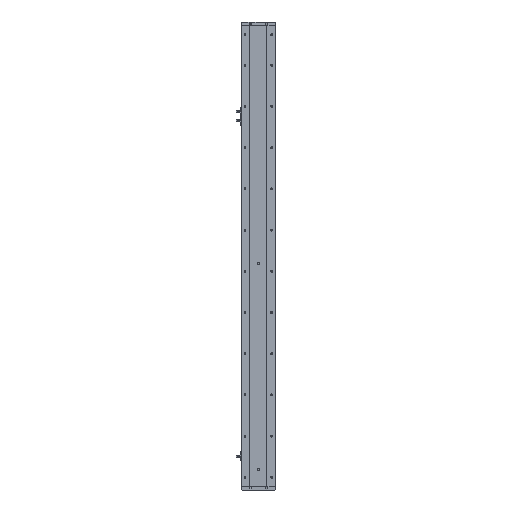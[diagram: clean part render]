
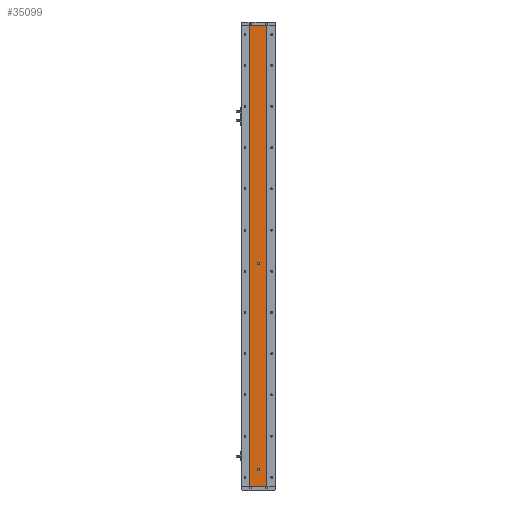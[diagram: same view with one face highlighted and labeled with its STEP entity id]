
A CAD part, left-side view. The second image highlights one B-rep face of the part: STEP entity #35099.
In plain terms, the highlighted planar face has unit normal (-1, 0, 0).
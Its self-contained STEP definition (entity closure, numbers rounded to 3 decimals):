
#1239 = VECTOR ( 'NONE', #41638, 1000. ) ;
#1699 = ORIENTED_EDGE ( 'NONE', *, *, #42191, .F. ) ;
#1868 = DIRECTION ( 'NONE',  ( 0., 0., 1. ) ) ;
#2475 = AXIS2_PLACEMENT_3D ( 'NONE', #39191, #18761, #42630 ) ;
#2477 = ORIENTED_EDGE ( 'NONE', *, *, #20180, .F. ) ;
#3954 = CARTESIAN_POINT ( 'NONE',  ( -18.926, 24.785, 1343. ) ) ;
#5323 = VECTOR ( 'NONE', #36519, 1000. ) ;
#5656 = EDGE_LOOP ( 'NONE', ( #1699, #11902 ) ) ;
#6449 = VERTEX_POINT ( 'NONE', #44157 ) ;
#7243 = LINE ( 'NONE', #41697, #12067 ) ;
#7827 = ORIENTED_EDGE ( 'NONE', *, *, #14732, .T. ) ;
#7989 = LINE ( 'NONE', #31238, #25095 ) ;
#8313 = PLANE ( 'NONE',  #2475 ) ;
#9141 = FACE_BOUND ( 'NONE', #5656, .T. ) ;
#9245 = EDGE_LOOP ( 'NONE', ( #7827, #9402, #14488, #28722 ) ) ;
#9402 = ORIENTED_EDGE ( 'NONE', *, *, #20039, .F. ) ;
#9959 = CARTESIAN_POINT ( 'NONE',  ( -18.926, -24.785, 0. ) ) ;
#10056 = AXIS2_PLACEMENT_3D ( 'NONE', #34208, #13785, #37632 ) ;
#10533 = VERTEX_POINT ( 'NONE', #29451 ) ;
#10575 = CARTESIAN_POINT ( 'NONE',  ( -18.926, 0., 50. ) ) ;
#11902 = ORIENTED_EDGE ( 'NONE', *, *, #31925, .F. ) ;
#12067 = VECTOR ( 'NONE', #31559, 1000. ) ;
#12466 = LINE ( 'NONE', #38184, #1239 ) ;
#12867 = CARTESIAN_POINT ( 'NONE',  ( -18.926, 0., 47. ) ) ;
#13785 = DIRECTION ( 'NONE',  ( -1., 0., 0. ) ) ;
#13999 = DIRECTION ( 'NONE',  ( 0., 0., 1. ) ) ;
#14488 = ORIENTED_EDGE ( 'NONE', *, *, #27639, .F. ) ;
#14576 = ORIENTED_EDGE ( 'NONE', *, *, #26041, .F. ) ;
#14732 = EDGE_CURVE ( 'NONE', #22362, #19849, #23473, .T. ) ;
#15258 = CARTESIAN_POINT ( 'NONE',  ( -18.926, 0., 650. ) ) ;
#18192 = FACE_BOUND ( 'NONE', #36360, .T. ) ;
#18692 = DIRECTION ( 'NONE',  ( 0., 0., 1. ) ) ;
#18761 = DIRECTION ( 'NONE',  ( 1., 0., 0. ) ) ;
#19849 = VERTEX_POINT ( 'NONE', #9959 ) ;
#19911 = VERTEX_POINT ( 'NONE', #30535 ) ;
#20039 = EDGE_CURVE ( 'NONE', #6449, #19849, #7243, .T. ) ;
#20180 = EDGE_CURVE ( 'NONE', #39984, #19911, #26457, .T. ) ;
#20554 = CIRCLE ( 'NONE', #10056, 3. ) ;
#22309 = DIRECTION ( 'NONE',  ( -1., 0., 0. ) ) ;
#22362 = VERTEX_POINT ( 'NONE', #22723 ) ;
#22723 = CARTESIAN_POINT ( 'NONE',  ( -18.926, 24.785, 0. ) ) ;
#22975 = CARTESIAN_POINT ( 'NONE',  ( -18.926, 24.785, 0. ) ) ;
#23473 = LINE ( 'NONE', #22975, #5323 ) ;
#25095 = VECTOR ( 'NONE', #34801, 1000. ) ;
#26041 = EDGE_CURVE ( 'NONE', #19911, #39984, #37734, .T. ) ;
#26457 = CIRCLE ( 'NONE', #44186, 3. ) ;
#27639 = EDGE_CURVE ( 'NONE', #31981, #6449, #12466, .T. ) ;
#28722 = ORIENTED_EDGE ( 'NONE', *, *, #43571, .T. ) ;
#29451 = CARTESIAN_POINT ( 'NONE',  ( -18.926, 0., 653. ) ) ;
#30535 = CARTESIAN_POINT ( 'NONE',  ( -18.926, 0., 53. ) ) ;
#31238 = CARTESIAN_POINT ( 'NONE',  ( -18.926, 24.785, 1343. ) ) ;
#31559 = DIRECTION ( 'NONE',  ( 0., 0., -1. ) ) ;
#31925 = EDGE_CURVE ( 'NONE', #35144, #10533, #20554, .T. ) ;
#31981 = VERTEX_POINT ( 'NONE', #3954 ) ;
#32026 = AXIS2_PLACEMENT_3D ( 'NONE', #15258, #39133, #18692 ) ;
#32760 = CARTESIAN_POINT ( 'NONE',  ( -18.926, 0., 647. ) ) ;
#34172 = AXIS2_PLACEMENT_3D ( 'NONE', #10575, #34430, #13999 ) ;
#34208 = CARTESIAN_POINT ( 'NONE',  ( -18.926, 0., 650. ) ) ;
#34430 = DIRECTION ( 'NONE',  ( -1., 0., 0. ) ) ;
#34801 = DIRECTION ( 'NONE',  ( 0., 0., -1. ) ) ;
#35099 = ADVANCED_FACE ( 'NONE', ( #9141, #18192, #36340 ), #8313, .F. ) ;
#35144 = VERTEX_POINT ( 'NONE', #32760 ) ;
#36340 = FACE_OUTER_BOUND ( 'NONE', #9245, .T. ) ;
#36360 = EDGE_LOOP ( 'NONE', ( #14576, #2477 ) ) ;
#36519 = DIRECTION ( 'NONE',  ( 0., -1., 0. ) ) ;
#37069 = CIRCLE ( 'NONE', #32026, 3. ) ;
#37632 = DIRECTION ( 'NONE',  ( 0., 0., 1. ) ) ;
#37734 = CIRCLE ( 'NONE', #34172, 3. ) ;
#38184 = CARTESIAN_POINT ( 'NONE',  ( -18.926, 24.785, 1343. ) ) ;
#39133 = DIRECTION ( 'NONE',  ( -1., 0., 0. ) ) ;
#39191 = CARTESIAN_POINT ( 'NONE',  ( -18.926, 24.785, 1343. ) ) ;
#39984 = VERTEX_POINT ( 'NONE', #12867 ) ;
#41638 = DIRECTION ( 'NONE',  ( 0., -1., 0. ) ) ;
#41697 = CARTESIAN_POINT ( 'NONE',  ( -18.926, -24.785, 1343. ) ) ;
#42191 = EDGE_CURVE ( 'NONE', #10533, #35144, #37069, .T. ) ;
#42630 = DIRECTION ( 'NONE',  ( 0., 0., -1. ) ) ;
#42731 = CARTESIAN_POINT ( 'NONE',  ( -18.926, 0., 50. ) ) ;
#43571 = EDGE_CURVE ( 'NONE', #31981, #22362, #7989, .T. ) ;
#44157 = CARTESIAN_POINT ( 'NONE',  ( -18.926, -24.785, 1343. ) ) ;
#44186 = AXIS2_PLACEMENT_3D ( 'NONE', #42731, #22309, #1868 ) ;
